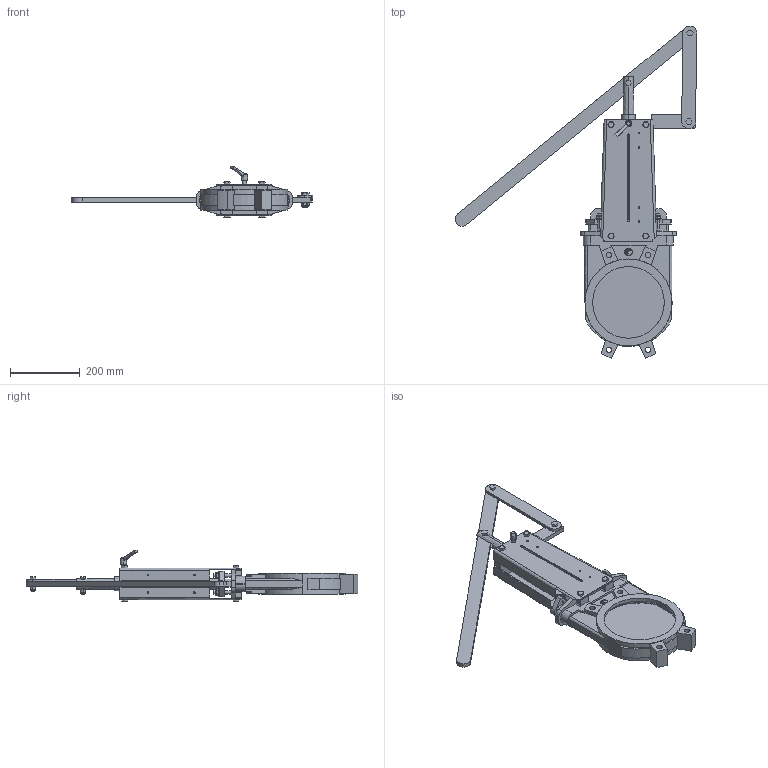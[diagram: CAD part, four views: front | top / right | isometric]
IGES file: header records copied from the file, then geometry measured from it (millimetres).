
Start section: SolidWorks IGES file using NURBS representation for surfaces
Global section: file name: H:\BE BIBLIOTHEQUE 3D\VG\VG-02 LEVER(DN50-300)\VG L DN200\VG L DN200.IGS; native system: SolidWorks 2011; preprocessor: SolidWorks 2011; author: c.aries; date: 121003.143443; units: millimetre
Bounding box: 694.46 x 954.68 x 149.34 mm (x, y, z)
Volume: 4430901 mm3; surface area: 838669.8 mm2
Topology: 3 solids, 10 shells, 824 faces, 2169 edges, 1409 vertices
Faces by surface type: bspline 824
